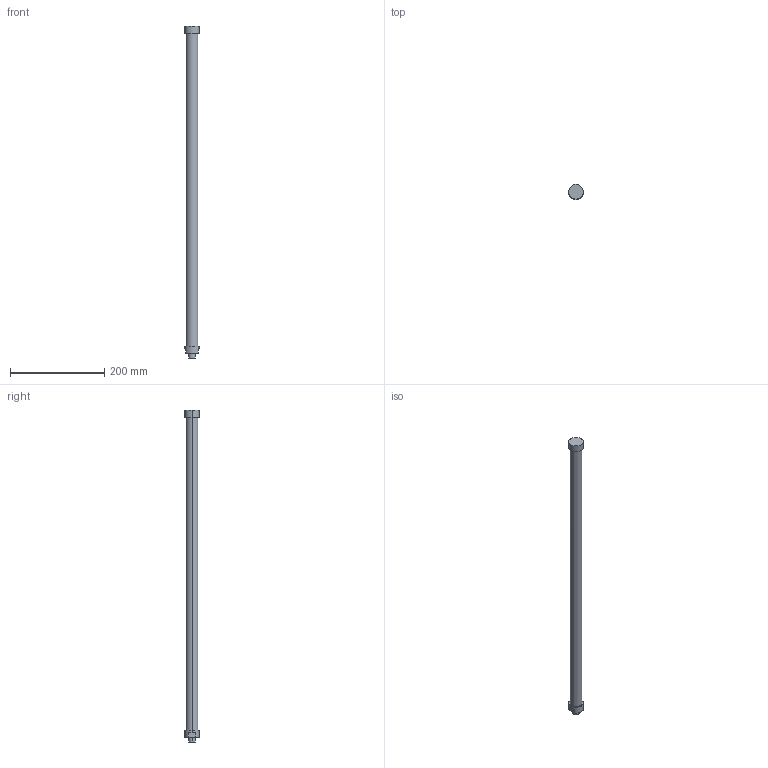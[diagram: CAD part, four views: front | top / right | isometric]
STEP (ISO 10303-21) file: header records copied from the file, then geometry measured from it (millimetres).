
FILE_DESCRIPTION(('STEP AP214'),'1');
FILE_NAME('C:/Users/Autocad/Desktop/L704-C480S1-FN.stp','2014-02-10T11:00:25',(' '),(' '),'Spatial InterOp 3D',' ',' ');
FILE_SCHEMA(('automotive_design'));
Length unit declared in the file: metre
Products named in the file (2): 1; 2
Bounding box: 31 x 31 x 704 mm (x, y, z)
Volume: 349154.3 mm3; surface area: 58117.3 mm2
Topology: 1 solids, 4 shells, 23 faces, 54 edges, 40 vertices
Faces by surface type: cylinder 12, plane 11
Entity records: 916 total; most frequent: DIRECTION 136, CARTESIAN_POINT 119, ORIENTED_EDGE 96, AXIS2_PLACEMENT_3D 57, EDGE_CURVE 54, VERTEX_POINT 40, CIRCLE 32, EDGE_LOOP 28
